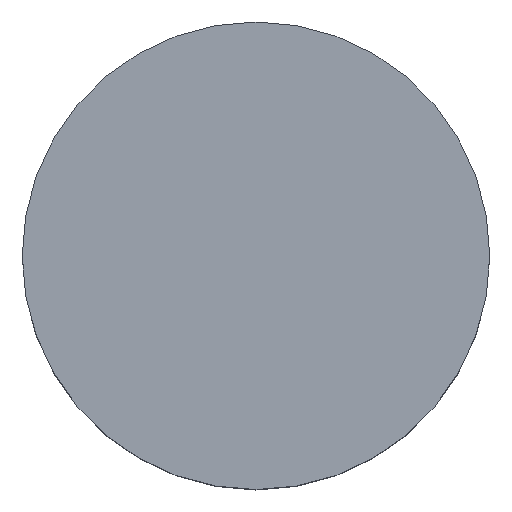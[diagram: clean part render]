
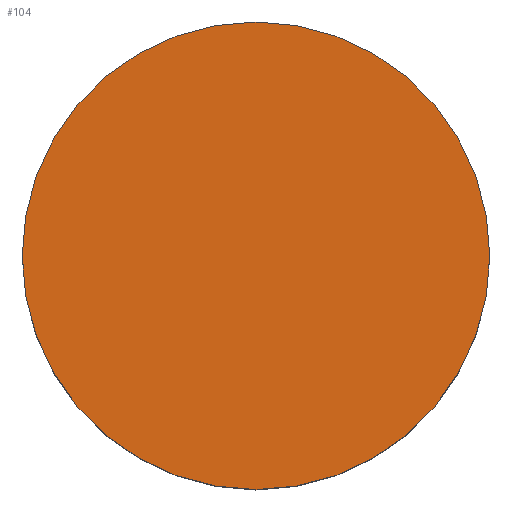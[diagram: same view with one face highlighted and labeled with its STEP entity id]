
A CAD part, top view. The second image highlights one B-rep face of the part: STEP entity #104.
In plain terms, the highlighted planar face has unit normal (0, 0, 1).
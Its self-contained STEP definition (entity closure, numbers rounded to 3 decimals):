
#83 = EDGE_CURVE('',#84,#84,#86,.T.);
#84 = VERTEX_POINT('',#85);
#85 = CARTESIAN_POINT('',(4.,0.,20.));
#86 = CIRCLE('',#87,4.);
#87 = AXIS2_PLACEMENT_3D('',#88,#89,#90);
#88 = CARTESIAN_POINT('',(0.,0.,20.));
#89 = DIRECTION('',(0.,0.,1.));
#90 = DIRECTION('',(1.,0.,-0.));
#104 = ADVANCED_FACE('',(#105),#108,.T.);
#105 = FACE_BOUND('',#106,.T.);
#106 = EDGE_LOOP('',(#107));
#107 = ORIENTED_EDGE('',*,*,#83,.T.);
#108 = PLANE('',#109);
#109 = AXIS2_PLACEMENT_3D('',#110,#111,#112);
#110 = CARTESIAN_POINT('',(0.,0.,20.));
#111 = DIRECTION('',(0.,0.,1.));
#112 = DIRECTION('',(1.,0.,-0.));
